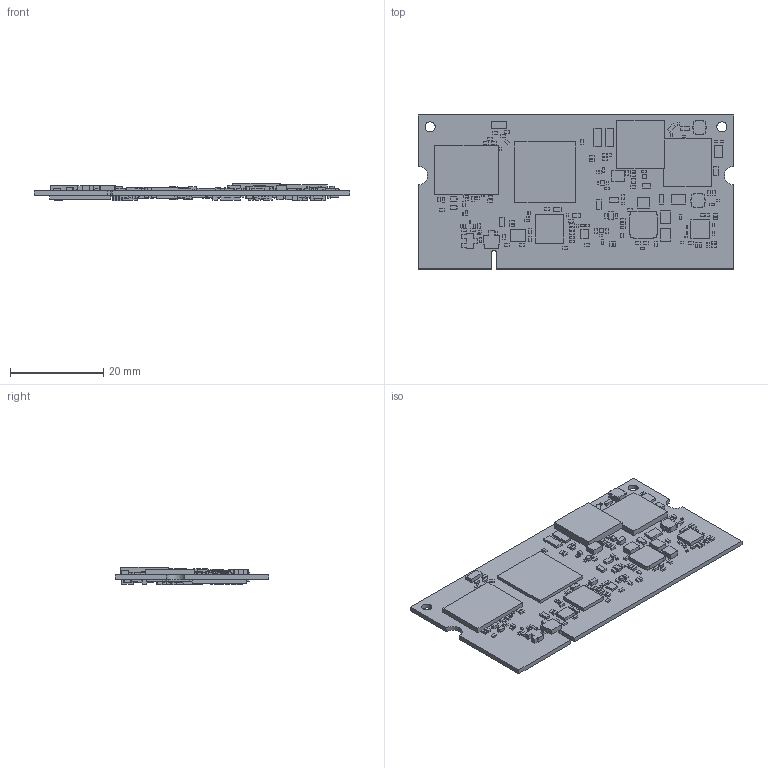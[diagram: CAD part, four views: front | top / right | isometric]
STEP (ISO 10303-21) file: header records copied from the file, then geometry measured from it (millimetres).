
FILE_DESCRIPTION (( 'STEP AP203' ), '1' );
FILE_NAME ('VAR-SOM-AM62xOrig.STEP', '2023-01-30T14:38:33', ( 'Äãñëí' ), ( '' ), 'SwSTEP 2.0', 'SolidWorks 2022', '' );
FILE_SCHEMA (( 'CONFIG_CONTROL_DESIGN' ));
Products named in the file (1): VAR-SOM-AM62xOrig
Bounding box: 67.6 x 32.99 x 3.71 mm (x, y, z)
Volume: 3286.4 mm3; surface area: 8137.8 mm2
Topology: 444 solids, 444 shells, 2834 faces, 5838 edges, 3892 vertices
Faces by surface type: plane 2825, cylinder 9
Entity records: 72319 total; most frequent: CARTESIAN_POINT 12565, ORIENTED_EDGE 11676, DIRECTION 11526, EDGE_CURVE 5838, VECTOR 5820, LINE 5820, VERTEX_POINT 3892, AXIS2_PLACEMENT_3D 2853
